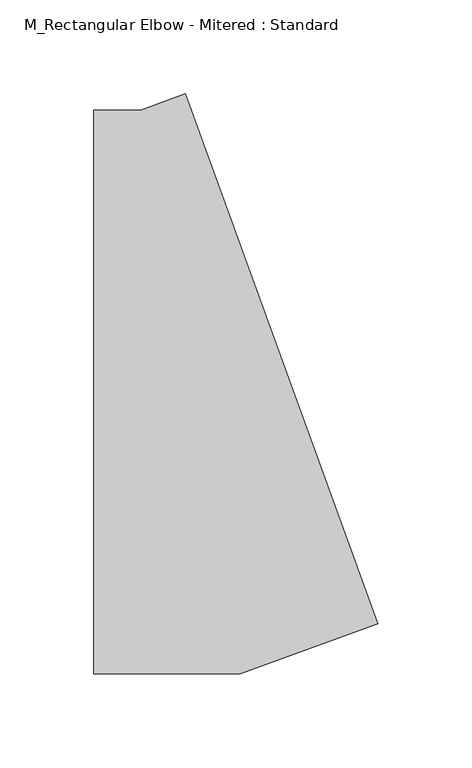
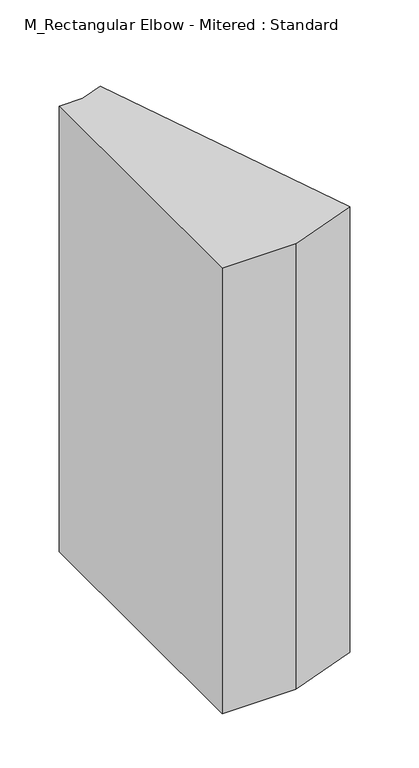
"""IFC4 building model written with IfcOpenShell, lengths in millimetres: duct fitting geometry, M_Rectangular Elbow - Mitered : Standard."""

from ifc_helpers import new_model, si_unit, frame, origin, place, context, project, spatial, polyline, outline, extrude, source, transform, mapped, element, save


def m_rectangular_elbow_mitered_standard_04b63b93(model_context):
    return source(origin(), model_context, "Body", "SweptSolid", [
        extrude(outline(polyline([(-51.4490471, -150.0), (-51.4490471, 150.0), (-26.4490471, 150.0), (-2.9567316, 158.5505036), (99.6493114, -123.3572827), (26.4490471, -150.0), (-51.4490471, -150.0)])), frame((0.0, 0.0, -250.0), z_axis=(0.0, 0.0, 1.0), x_axis=(1.0, 0.0, 0.0)), (0.0, 0.0, 1.0), 500.0),
        extrude(outline(polyline([(-51.4490471, -150.0), (-51.4490471, 150.0), (-26.4490471, 150.0), (-2.9567316, 158.5505036), (99.6493114, -123.3572827), (26.4490471, -150.0), (-51.4490471, -150.0)])), frame((0.0, 0.0, -250.0), z_axis=(0.0, 0.0, 1.0), x_axis=(1.0, 0.0, 0.0)), (0.0, 0.0, 1.0), 500.0),
        extrude(outline(polyline([(-51.4490471, -150.0), (-51.4490471, 150.0), (-26.4490471, 150.0), (-2.9567316, 158.5505036), (99.6493114, -123.3572827), (26.4490471, -150.0), (-51.4490471, -150.0)])), frame((0.0, 0.0, -250.0), z_axis=(0.0, 0.0, 1.0), x_axis=(1.0, 0.0, 0.0)), (0.0, 0.0, 1.0), 500.0),
    ])


if __name__ == "__main__":
    model = new_model("IFC4")
    model_context = context("Model", 3, world=origin())
    ifc_project = project(units=[si_unit("LENGTHUNIT", "METRE", prefix="MILLI")], contexts=[model_context])
    site = spatial("IfcSite", under=ifc_project)
    building = spatial("IfcBuilding", under=site)
    placement = place(None, origin())
    m_rectangular_elbow_mitered_standard_shape = m_rectangular_elbow_mitered_standard_04b63b93(model_context)
    element("IfcDuctFitting", 1, ObjectType="M_Rectangular Elbow - Mitered : Standard", at=placement, inside=building, context=model_context, shape_type="MappedRepresentation", body=[
        mapped(m_rectangular_elbow_mitered_standard_shape, transform((0.0, 0.0, 0.0), x_axis=(1.0, 0.0, 0.0), y_axis=(0.0, 1.0, 0.0), z_axis=(0.0, 0.0, 1.0))),
    ])
    save(model, "model.ifc")
